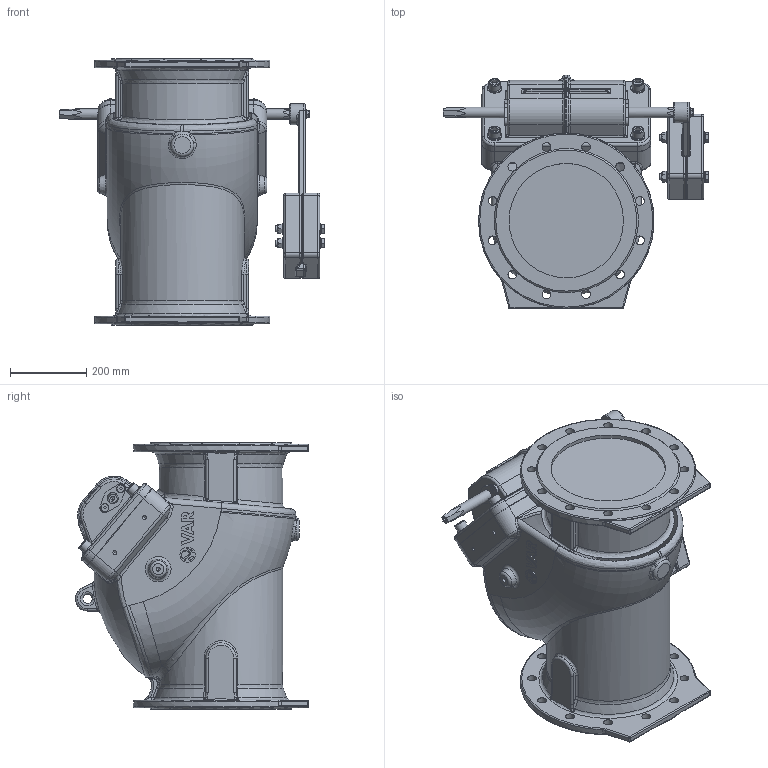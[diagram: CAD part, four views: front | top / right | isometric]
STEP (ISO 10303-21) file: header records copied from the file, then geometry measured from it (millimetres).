
FILE_DESCRIPTION(('STEP AP203'), '1');
FILE_NAME('VAR LIMU-STOP Îáðàòíûé êëàïàí DN 300 PN 10 c ðû÷àãîì è ïðîòèâîâåñîì', '2026-06-28T08:29:11', (' '), (' '), 'C3D Converter', 'C3D Toolkit', '');
FILE_SCHEMA(('CONFIG_CONTROL_DESIGN'));
Length unit declared in the file: millimetre
Products named in the file (1): Admi0C102497dmcq
Bounding box: 696 x 611.96 x 700 mm (x, y, z)
Volume: 103287188.1 mm3; surface area: 1994154.6 mm2
Topology: 1 solids, 15 shells, 1267 faces, 3232 edges, 1989 vertices
Faces by surface type: plane 388, cylinder 308, bspline 207, extrusion 156, torus 111, cone 62, sphere 35
Full cylindrical faces by diameter (mm): 10 x4, 10.106 x8, 11 x4, 11.053 x1, 13 x1, 16 x8, 17 x4, 17.2 x1, 20 x8, 21 x4, 22.5 x2, 23 x24, 24 x1, 25 x1, 28 x2, 29 x2, 30 x8, 37 x4, 39.885 x1, 55 x1, 300 x2, 460 x2
Entity records: 79334 total; most frequent: CARTESIAN_POINT 42605, ORIENTED_EDGE 5974, DIRECTION 4804, EDGE_CURVE 2987, VERTEX_POINT 1944, AXIS2_PLACEMENT_3D 1786, EDGE_LOOP 1541, FACE_BOUND 1416
